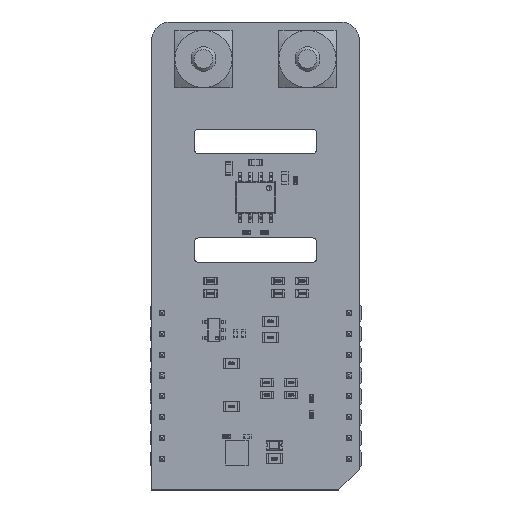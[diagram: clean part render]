
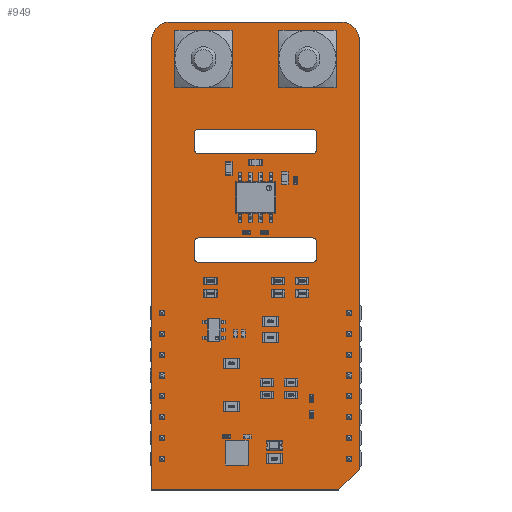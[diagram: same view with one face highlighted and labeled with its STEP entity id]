
A CAD part, top view. The second image highlights one B-rep face of the part: STEP entity #949.
In plain terms, the highlighted planar face has unit normal (0, 0, 1).
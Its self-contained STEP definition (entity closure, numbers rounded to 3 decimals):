
#188 = VERTEX_POINT('',#189);
#189 = CARTESIAN_POINT('',(-1.27,-3.81,1.59));
#195 = EDGE_CURVE('',#188,#196,#198,.T.);
#196 = VERTEX_POINT('',#197);
#197 = CARTESIAN_POINT('',(-1.27,51.054,1.59));
#198 = LINE('',#199,#200);
#199 = CARTESIAN_POINT('',(-1.27,-3.81,1.59));
#200 = VECTOR('',#201,1.);
#201 = DIRECTION('',(0.,1.,0.));
#226 = EDGE_CURVE('',#196,#227,#229,.T.);
#227 = VERTEX_POINT('',#228);
#228 = CARTESIAN_POINT('',(1.016,53.34,1.59));
#229 = CIRCLE('',#230,2.288);
#230 = AXIS2_PLACEMENT_3D('',#231,#232,#233);
#231 = CARTESIAN_POINT('',(1.018,51.052,1.59));
#232 = DIRECTION('',(0.,0.,-1.));
#233 = DIRECTION('',(-1.,0.001,0.));
#259 = EDGE_CURVE('',#227,#260,#262,.T.);
#260 = VERTEX_POINT('',#261);
#261 = CARTESIAN_POINT('',(21.844,53.34,1.59));
#262 = LINE('',#263,#264);
#263 = CARTESIAN_POINT('',(1.016,53.34,1.59));
#264 = VECTOR('',#265,1.);
#265 = DIRECTION('',(1.,0.,0.));
#290 = EDGE_CURVE('',#260,#291,#293,.T.);
#291 = VERTEX_POINT('',#292);
#292 = CARTESIAN_POINT('',(24.13,51.054,1.59));
#293 = CIRCLE('',#294,2.288);
#294 = AXIS2_PLACEMENT_3D('',#295,#296,#297);
#295 = CARTESIAN_POINT('',(21.842,51.052,1.59));
#296 = DIRECTION('',(0.,0.,-1.));
#297 = DIRECTION('',(0.001,1.,0.));
#323 = EDGE_CURVE('',#291,#324,#326,.T.);
#324 = VERTEX_POINT('',#325);
#325 = CARTESIAN_POINT('',(24.13,-1.27,1.59));
#326 = LINE('',#327,#328);
#327 = CARTESIAN_POINT('',(24.13,51.054,1.59));
#328 = VECTOR('',#329,1.);
#329 = DIRECTION('',(0.,-1.,0.));
#354 = EDGE_CURVE('',#324,#355,#357,.T.);
#355 = VERTEX_POINT('',#356);
#356 = CARTESIAN_POINT('',(21.59,-3.81,1.59));
#357 = LINE('',#358,#359);
#358 = CARTESIAN_POINT('',(24.13,-1.27,1.59));
#359 = VECTOR('',#360,1.);
#360 = DIRECTION('',(-0.707,-0.707,0.));
#385 = EDGE_CURVE('',#355,#188,#386,.T.);
#386 = LINE('',#387,#388);
#387 = CARTESIAN_POINT('',(21.59,-3.81,1.59));
#388 = VECTOR('',#389,1.);
#389 = DIRECTION('',(-1.,0.,0.));
#409 = VERTEX_POINT('',#410);
#410 = CARTESIAN_POINT('',(3.939,37.865,1.59));
#416 = EDGE_CURVE('',#409,#417,#419,.T.);
#417 = VERTEX_POINT('',#418);
#418 = CARTESIAN_POINT('',(3.939,39.663,1.59));
#419 = LINE('',#420,#421);
#420 = CARTESIAN_POINT('',(3.939,37.865,1.59));
#421 = VECTOR('',#422,1.);
#422 = DIRECTION('',(0.,1.,0.));
#449 = VERTEX_POINT('',#450);
#450 = CARTESIAN_POINT('',(4.553,37.251,1.59));
#456 = EDGE_CURVE('',#449,#409,#457,.T.);
#457 = CIRCLE('',#458,0.613);
#458 = AXIS2_PLACEMENT_3D('',#459,#460,#461);
#459 = CARTESIAN_POINT('',(4.552,37.864,1.59));
#460 = DIRECTION('',(0.,0.,-1.));
#461 = DIRECTION('',(0.002,-1.,0.));
#482 = VERTEX_POINT('',#483);
#483 = CARTESIAN_POINT('',(18.318,37.251,1.59));
#489 = EDGE_CURVE('',#482,#449,#490,.T.);
#490 = LINE('',#491,#492);
#491 = CARTESIAN_POINT('',(18.318,37.251,1.59));
#492 = VECTOR('',#493,1.);
#493 = DIRECTION('',(-1.,0.,0.));
#513 = VERTEX_POINT('',#514);
#514 = CARTESIAN_POINT('',(18.928,37.86,1.59));
#520 = EDGE_CURVE('',#513,#482,#521,.T.);
#521 = CIRCLE('',#522,0.609);
#522 = AXIS2_PLACEMENT_3D('',#523,#524,#525);
#523 = CARTESIAN_POINT('',(18.319,37.86,1.59));
#524 = DIRECTION('',(0.,0.,-1.));
#525 = DIRECTION('',(1.,-0.001,0.));
#546 = VERTEX_POINT('',#547);
#547 = CARTESIAN_POINT('',(18.928,39.663,1.59));
#553 = EDGE_CURVE('',#546,#513,#554,.T.);
#554 = LINE('',#555,#556);
#555 = CARTESIAN_POINT('',(18.928,39.663,1.59));
#556 = VECTOR('',#557,1.);
#557 = DIRECTION('',(0.,-1.,0.));
#577 = VERTEX_POINT('',#578);
#578 = CARTESIAN_POINT('',(18.318,40.273,1.59));
#584 = EDGE_CURVE('',#577,#546,#585,.T.);
#585 = CIRCLE('',#586,0.611);
#586 = AXIS2_PLACEMENT_3D('',#587,#588,#589);
#587 = CARTESIAN_POINT('',(18.317,39.662,1.59));
#588 = DIRECTION('',(0.,0.,-1.));
#589 = DIRECTION('',(0.002,1.,0.));
#610 = VERTEX_POINT('',#611);
#611 = CARTESIAN_POINT('',(4.548,40.273,1.59));
#617 = EDGE_CURVE('',#610,#577,#618,.T.);
#618 = LINE('',#619,#620);
#619 = CARTESIAN_POINT('',(4.548,40.273,1.59));
#620 = VECTOR('',#621,1.);
#621 = DIRECTION('',(1.,0.,0.));
#639 = EDGE_CURVE('',#417,#610,#640,.T.);
#640 = CIRCLE('',#641,0.609);
#641 = AXIS2_PLACEMENT_3D('',#642,#643,#644);
#642 = CARTESIAN_POINT('',(4.548,39.664,1.59));
#643 = DIRECTION('',(0.,0.,-1.));
#644 = DIRECTION('',(-1.,-0.001,-0.));
#665 = VERTEX_POINT('',#666);
#666 = CARTESIAN_POINT('',(3.939,24.581,1.59));
#672 = EDGE_CURVE('',#665,#673,#675,.T.);
#673 = VERTEX_POINT('',#674);
#674 = CARTESIAN_POINT('',(3.939,26.379,1.59));
#675 = LINE('',#676,#677);
#676 = CARTESIAN_POINT('',(3.939,24.581,1.59));
#677 = VECTOR('',#678,1.);
#678 = DIRECTION('',(0.,1.,0.));
#705 = VERTEX_POINT('',#706);
#706 = CARTESIAN_POINT('',(4.553,23.966,1.59));
#712 = EDGE_CURVE('',#705,#665,#713,.T.);
#713 = CIRCLE('',#714,0.615);
#714 = AXIS2_PLACEMENT_3D('',#715,#716,#717);
#715 = CARTESIAN_POINT('',(4.554,24.581,1.59));
#716 = DIRECTION('',(0.,0.,-1.));
#717 = DIRECTION('',(-0.001,-1.,-0.));
#738 = VERTEX_POINT('',#739);
#739 = CARTESIAN_POINT('',(18.318,23.966,1.59));
#745 = EDGE_CURVE('',#738,#705,#746,.T.);
#746 = LINE('',#747,#748);
#747 = CARTESIAN_POINT('',(18.318,23.966,1.59));
#748 = VECTOR('',#749,1.);
#749 = DIRECTION('',(-1.,0.,0.));
#769 = VERTEX_POINT('',#770);
#770 = CARTESIAN_POINT('',(18.928,24.576,1.59));
#776 = EDGE_CURVE('',#769,#738,#777,.T.);
#777 = CIRCLE('',#778,0.611);
#778 = AXIS2_PLACEMENT_3D('',#779,#780,#781);
#779 = CARTESIAN_POINT('',(18.317,24.577,1.59));
#780 = DIRECTION('',(0.,0.,-1.));
#781 = DIRECTION('',(1.,-0.002,0.));
#802 = VERTEX_POINT('',#803);
#803 = CARTESIAN_POINT('',(18.928,26.379,1.59));
#809 = EDGE_CURVE('',#802,#769,#810,.T.);
#810 = LINE('',#811,#812);
#811 = CARTESIAN_POINT('',(18.928,26.379,1.59));
#812 = VECTOR('',#813,1.);
#813 = DIRECTION('',(0.,-1.,0.));
#833 = VERTEX_POINT('',#834);
#834 = CARTESIAN_POINT('',(18.318,26.989,1.59));
#840 = EDGE_CURVE('',#833,#802,#841,.T.);
#841 = CIRCLE('',#842,0.611);
#842 = AXIS2_PLACEMENT_3D('',#843,#844,#845);
#843 = CARTESIAN_POINT('',(18.317,26.378,1.59));
#844 = DIRECTION('',(0.,0.,-1.));
#845 = DIRECTION('',(0.002,1.,0.));
#866 = VERTEX_POINT('',#867);
#867 = CARTESIAN_POINT('',(4.548,26.989,1.59));
#873 = EDGE_CURVE('',#866,#833,#874,.T.);
#874 = LINE('',#875,#876);
#875 = CARTESIAN_POINT('',(4.548,26.989,1.59));
#876 = VECTOR('',#877,1.);
#877 = DIRECTION('',(1.,0.,0.));
#895 = EDGE_CURVE('',#673,#866,#896,.T.);
#896 = CIRCLE('',#897,0.609);
#897 = AXIS2_PLACEMENT_3D('',#898,#899,#900);
#898 = CARTESIAN_POINT('',(4.548,26.38,1.59));
#899 = DIRECTION('',(0.,0.,-1.));
#900 = DIRECTION('',(-1.,-0.001,-0.));
#949 = ADVANCED_FACE('',(#950,#959,#969),#979,.F.);
#950 = FACE_BOUND('',#951,.F.);
#951 = EDGE_LOOP('',(#952,#953,#954,#955,#956,#957,#958));
#952 = ORIENTED_EDGE('',*,*,#195,.T.);
#953 = ORIENTED_EDGE('',*,*,#226,.T.);
#954 = ORIENTED_EDGE('',*,*,#259,.T.);
#955 = ORIENTED_EDGE('',*,*,#290,.T.);
#956 = ORIENTED_EDGE('',*,*,#323,.T.);
#957 = ORIENTED_EDGE('',*,*,#354,.T.);
#958 = ORIENTED_EDGE('',*,*,#385,.T.);
#959 = FACE_BOUND('',#960,.F.);
#960 = EDGE_LOOP('',(#961,#962,#963,#964,#965,#966,#967,#968));
#961 = ORIENTED_EDGE('',*,*,#416,.F.);
#962 = ORIENTED_EDGE('',*,*,#456,.F.);
#963 = ORIENTED_EDGE('',*,*,#489,.F.);
#964 = ORIENTED_EDGE('',*,*,#520,.F.);
#965 = ORIENTED_EDGE('',*,*,#553,.F.);
#966 = ORIENTED_EDGE('',*,*,#584,.F.);
#967 = ORIENTED_EDGE('',*,*,#617,.F.);
#968 = ORIENTED_EDGE('',*,*,#639,.F.);
#969 = FACE_BOUND('',#970,.F.);
#970 = EDGE_LOOP('',(#971,#972,#973,#974,#975,#976,#977,#978));
#971 = ORIENTED_EDGE('',*,*,#672,.F.);
#972 = ORIENTED_EDGE('',*,*,#712,.F.);
#973 = ORIENTED_EDGE('',*,*,#745,.F.);
#974 = ORIENTED_EDGE('',*,*,#776,.F.);
#975 = ORIENTED_EDGE('',*,*,#809,.F.);
#976 = ORIENTED_EDGE('',*,*,#840,.F.);
#977 = ORIENTED_EDGE('',*,*,#873,.F.);
#978 = ORIENTED_EDGE('',*,*,#895,.F.);
#979 = PLANE('',#980);
#980 = AXIS2_PLACEMENT_3D('',#981,#982,#983);
#981 = CARTESIAN_POINT('',(11.305,24.669,1.59));
#982 = DIRECTION('',(-0.,-0.,-1.));
#983 = DIRECTION('',(-1.,0.,0.));
